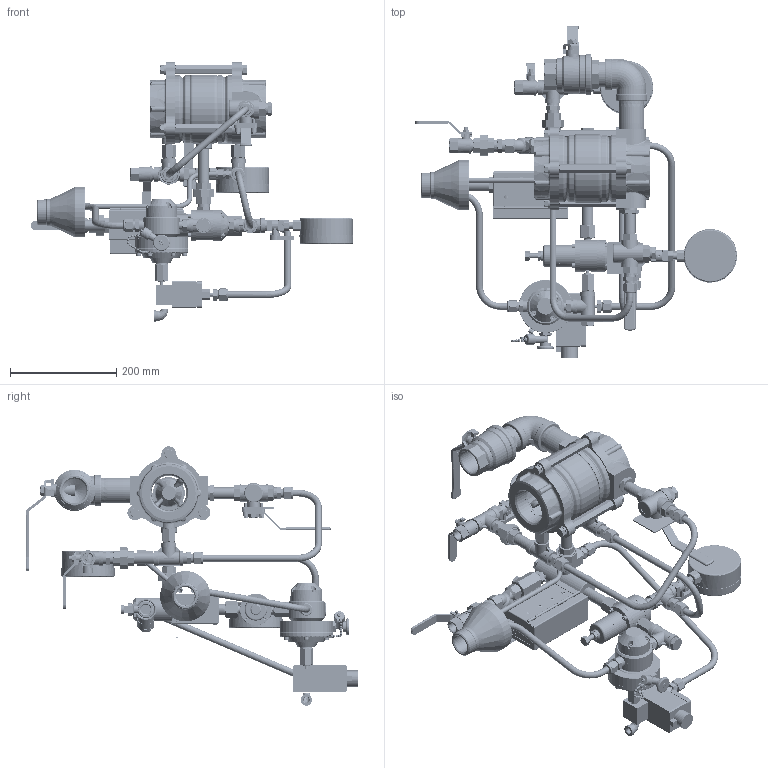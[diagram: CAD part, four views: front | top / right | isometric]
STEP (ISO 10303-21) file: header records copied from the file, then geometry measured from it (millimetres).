
FILE_DESCRIPTION(/* description */ (''),/* implementation_level */ '2;1');
FILE_NAME(/* name */ '711DX-04CR05 FM Trim 2-5in.stp',/* time_stamp */ '2025-03-25T12:25:41+02:00',/* author */ ('alex'),/* organization */ (''),/* preprocessor_version */ 'ST-DEVELOPER v20',/* originating_system */ 'Autodesk Inventor 2024',/* authorisation */ '');
FILE_SCHEMA (('AUTOMOTIVE_DESIGN { 1 0 10303 214 3 1 1 }'));
Products named in the file (1): 711DX-04CR05 FM Trim 2-5in STEP
Bounding box: 607.26 x 625.3 x 488.8 mm (x, y, z)
Volume: 4188955.8 mm3; surface area: 1378404.5 mm2
Topology: 8 solids, 88 shells, 6316 faces, 15678 edges, 9879 vertices
Faces by surface type: plane 2971, cone 1357, cylinder 1239, bspline 473, torus 244, sphere 32
Full cylindrical faces by diameter (mm): 1.2 x10, 2 x6, 3 x3, 3.242 x1, 4 x15, 4.1 x2, 4.134 x23, 4.2 x6, 5 x48, 5.2 x20, 5.25 x2, 5.5 x5, 5.8 x4, 6 x7, 6.33 x4, 6.4 x4, 6.5 x2, 6.6 x2, 6.604 x1, 6.88 x2, 7 x10, 7.036 x3, 7.3 x1, 7.5 x1, 7.515 x4, 7.6 x2, 8 x6, 8.1 x1, 8.5 x24, 8.6 x4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
Entity records: 208995 total; most frequent: CARTESIAN_POINT 59622, ORIENTED_EDGE 30974, DIRECTION 28607, EDGE_CURVE 15487, AXIS2_PLACEMENT_3D 10852, VERTEX_POINT 9809, EDGE_LOOP 7159, LINE 6903
